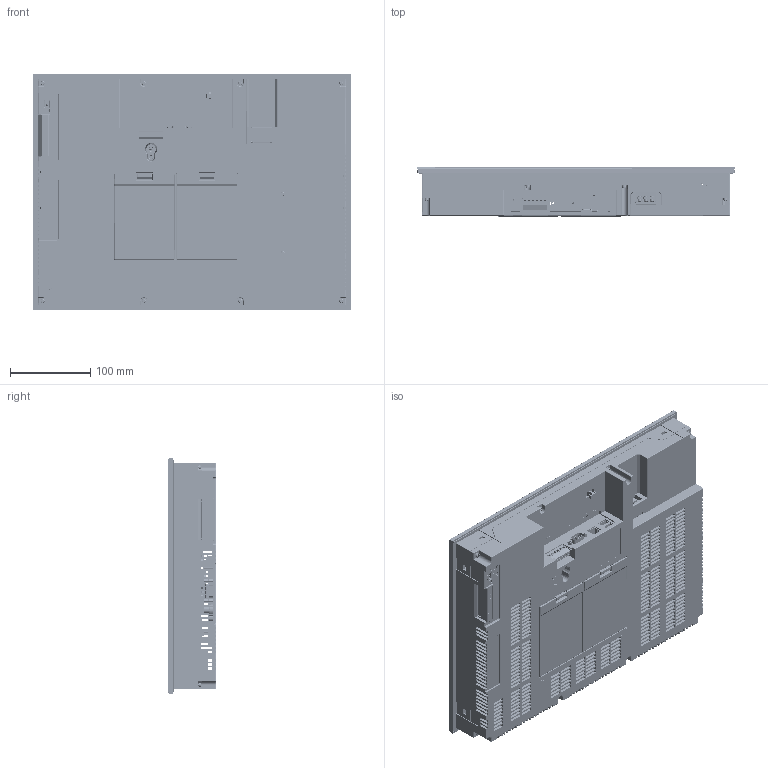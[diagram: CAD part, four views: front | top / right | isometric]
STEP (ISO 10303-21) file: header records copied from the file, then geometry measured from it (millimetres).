
FILE_DESCRIPTION((''),'2;1');
FILE_NAME('IXP90_160817','2016-08-17T',('jwkwack'),(''),'PRO/ENGINEER BY PARAMETRIC TECHNOLOGY CORPORATION, 2013240','PRO/ENGINEER BY PARAMETRIC TECHNOLOGY CORPORATION, 2013240','');
FILE_SCHEMA(('CONFIG_CONTROL_DESIGN'));
Products named in the file (1): IXP90_160817
Bounding box: 395 x 61 x 294 mm (x, y, z)
Surface area: 2050003.7 mm2 (no closed solid volume)
Topology: 0 solids, 133 shells, 32126 faces, 92264 edges, 59958 vertices
Faces by surface type: plane 28353, cylinder 3125, cone 288, torus 180, sphere 98, bspline 66, extrusion 16
Entity records: 1036757 total; most frequent: CARTESIAN_POINT 196364, ORIENTED_EDGE 179590, DIRECTION 160878, EDGE_CURVE 92194, VECTOR 81886, LINE 81870, VERTEX_POINT 59974, AXIS2_PLACEMENT_3D 39496
